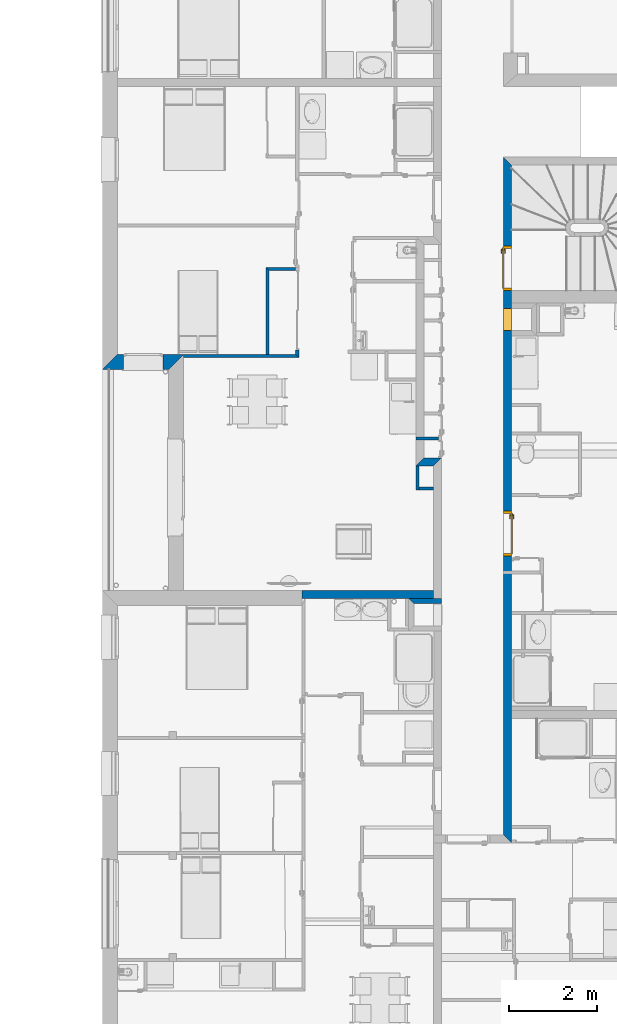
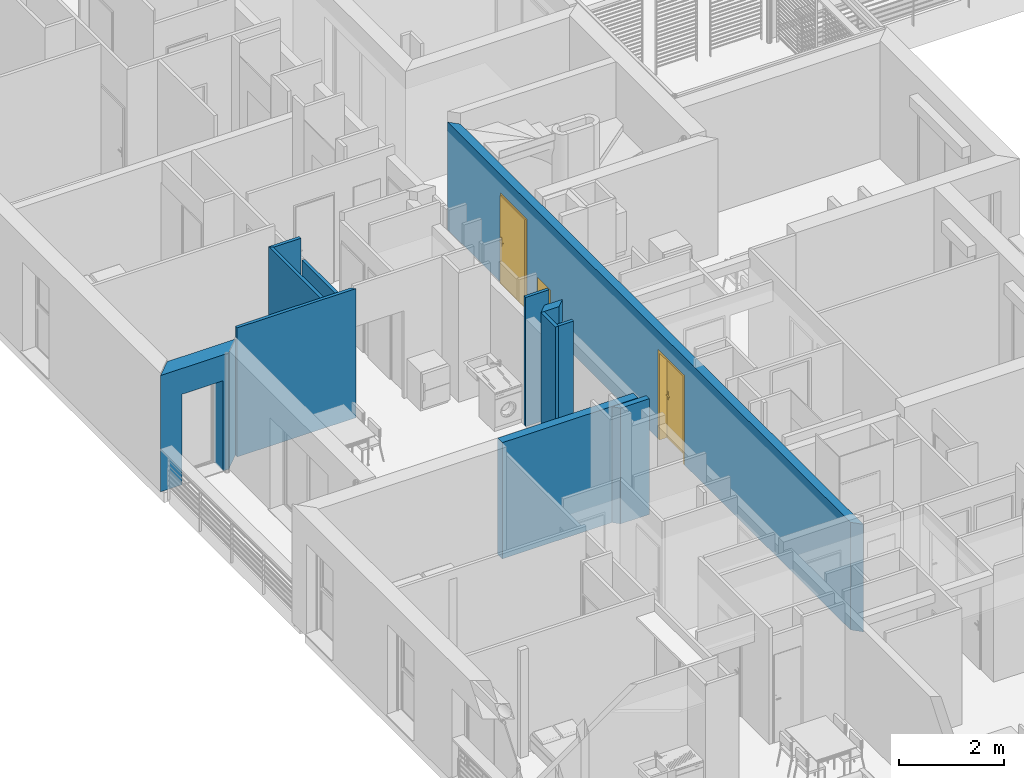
# One storey, part 36 of 171: 12 walls, 3 doors, 5 openings.
"""IFC2X3 building model written with IfcOpenShell, lengths in millimetres."""

from ifc_helpers import new_model, entity, si_unit, converted_unit, derived_unit, money_unit, direction, frame, origin_with_axes, origin_2d_with_axis, place, context, subcontext, project, spatial, polyline, rectangle, outline, extrude, faceted_brep, source, transform, mapped, material, layer, layer_set, layer_usage, type_object, element, fill, save


model = new_model("IFC2X3")

# Units and contexts
model_context = context("Model", 3, precision=0.01, world=origin_with_axes(), true_north=direction((0.0, 1.0)))
body_context = subcontext(model_context, "Body", "Model", "MODEL_VIEW")
ifc_project = project(units=[si_unit("LENGTHUNIT", "METRE", prefix="MILLI"), si_unit("AREAUNIT", "SQUARE_METRE"), si_unit("VOLUMEUNIT", "CUBIC_METRE"), converted_unit("PLANEANGLEUNIT", "DEGREE", entity("IfcPlaneAngleMeasure", 0.0174532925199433), si_unit("PLANEANGLEUNIT", "RADIAN"), dimensions=[0, 0, 0, 0, 0, 0, 0]), money_unit("USD"), converted_unit("TIMEUNIT", "Year", entity("IfcTimeMeasure", 31557600.0), si_unit("TIMEUNIT", "SECOND"), dimensions=[0, 0, 1, 0, 0, 0, 0]), si_unit("MASSUNIT", "GRAM", prefix="KILO"), si_unit("THERMODYNAMICTEMPERATUREUNIT", "DEGREE_CELSIUS"), si_unit("LUMINOUSINTENSITYUNIT", "LUMEN"), si_unit("ENERGYUNIT", "JOULE", prefix="MEGA"), derived_unit("THERMALCONDUCTANCEUNIT", [(si_unit("POWERUNIT", "WATT"), 1), (si_unit("LENGTHUNIT", "METRE"), -1), (si_unit("THERMODYNAMICTEMPERATUREUNIT", "KELVIN"), -1)]), derived_unit("SPECIFICHEATCAPACITYUNIT", [(si_unit("ENERGYUNIT", "JOULE"), 1), (si_unit("MASSUNIT", "GRAM", prefix="KILO"), -1), (si_unit("THERMODYNAMICTEMPERATUREUNIT", "KELVIN"), -1)]), derived_unit("MASSDENSITYUNIT", [(si_unit("MASSUNIT", "GRAM", prefix="KILO"), 1), (si_unit("VOLUMEUNIT", "CUBIC_METRE"), -1)])], contexts=[model_context])

# Site, building, storey
site_placement = place(None, origin_with_axes())
site = spatial("IfcSite", under=ifc_project, at=site_placement, Name="Site", CompositionType="ELEMENT")
building_placement = place(site_placement, origin_with_axes())
building = spatial("IfcBuilding", under=site, at=building_placement, Name="Bâtiment", CompositionType="ELEMENT")
storey_placement = place(building_placement, frame((0.0, 0.0, 3000.0), z_axis=(0.0, 0.0, 1.0), x_axis=(1.0, 0.0, 0.0)))
storey = spatial("IfcBuildingStorey", under=building, at=storey_placement, Name="rdc", CompositionType="ELEMENT", Elevation=3000.0)

# Wall, openings, doors
ifc_material_1 = material(Name="Parpaing 314940890")
ifc_layer_1 = layer(ifc_material_1, 180.0, ventilated="UNKNOWN")
ifc_layer_set_1 = layer_set([ifc_layer_1], Name="Beton  18 0018356637")
ifc_layer_usage_1 = layer_usage(ifc_layer_set_1, "AXIS2", "POSITIVE", 0.0)
wall_type_1 = type_object("IfcWallType", Name="Beton  18 0018356637 180", PredefinedType="NOTDEFINED")
wall_1_placement = place(storey_placement, frame((2225712.318356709, -634393.514679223, 0.0), z_axis=(0.0, 0.0, 1.0), x_axis=(0.0, -1.0, 0.0)))
wall_1 = element("IfcWallStandardCase", 1, at=wall_1_placement, inside=storey, type_object=wall_type_1, material=ifc_layer_usage_1, Name="Mur-143", context=body_context, shape_type="SweptSolid", body=[
    extrude(outline(polyline([(-180.000000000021, 0.0), (15156.07795660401, 0.0), (15336.07800512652, 179.99999999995), (0.0, 179.99999999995), (-180.000000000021, 0.0)])), origin_with_axes(), (0.0, 0.0, 1.0), 2500.0),
])
opening_1_placement = place(wall_1_placement, frame((8334.59739808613, 0.0, 0.0), z_axis=(0.0, 0.0, 1.0), x_axis=(1.0, 0.0, 0.0)))
opening_1 = element("IfcOpeningElement", 2, at=opening_1_placement, cuts=wall_1, Name="Por-299", context=body_context, shape_type="SweptSolid", body=[
    extrude(rectangle(XDim=1010.00001192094, YDim=2080.0, at=origin_2d_with_axis()), frame((5.960473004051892e-06, -179.99999999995, 1040.0), z_axis=(0.0, 1.0, 0.0), x_axis=(1.0, 0.0, 0.0)), (0.0, 0.0, 1.0), 360.0),
])
opening_2_placement = place(wall_1_placement, frame((3494.863080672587, 1.13686837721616e-10, 299.9999999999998), z_axis=(0.0, 0.0, 1.0), x_axis=(1.0, 0.0, 0.0)))
opening_2 = element("IfcOpeningElement", 3, at=opening_2_placement, cuts=wall_1, Name="Por-235", context=body_context, shape_type="SweptSolid", body=[
    extrude(rectangle(XDim=489.9999985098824, YDim=669.9999999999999, at=origin_2d_with_axis()), frame((7.450609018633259e-07, 179.99999999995, 334.9999999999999), z_axis=(0.0, -1.0, 0.0), x_axis=(-1.0, 0.0, 0.0)), (0.0, 0.0, 1.0), 360.0),
])
opening_3_placement = place(wall_1_placement, frame((2332.186197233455, 2.273736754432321e-10, 0.0), z_axis=(0.0, 0.0, 1.0), x_axis=(1.0, 0.0, 0.0)))
opening_3 = element("IfcOpeningElement", 4, at=opening_3_placement, cuts=wall_1, Name="Por-295", context=body_context, shape_type="SweptSolid", body=[
    extrude(rectangle(XDim=1010.00001192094, YDim=2080.0, at=origin_2d_with_axis()), frame((5.960473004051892e-06, 179.99999999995, 1040.0), z_axis=(0.0, 1.0, 0.0), x_axis=(1.0, 0.0, 0.0)), (0.0, 0.0, -1.0), 360.0),
])
door_style = type_object("IfcDoorStyle", Name="Porte_1v", ConstructionType="NOTDEFINED", OperationType="NOTDEFINED", ParameterTakesPrecedence=False, Sizeable=False)
shared_shape_1 = source(origin_with_axes(), body_context, "Body", "Brep", [
    faceted_brep([(504.9999999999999, 0.0, 0.0), (464.9999999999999, 0.0, 0.0), (464.9999999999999, 0.0, 2040.0), (-464.9999999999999, 0.0, 2040.0), (-464.9999999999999, 0.0, 0.0), (-504.9999999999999, 0.0, 0.0), (-504.9999999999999, 0.0, 2080.0), (504.9999999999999, 0.0, 2080.0), (504.9999999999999, -180.0, 0.0), (449.9999999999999, -180.0, 0.0), (449.9999999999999, -15.0, 0.0), (464.9999999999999, -15.0, 0.0), (464.9999999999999, -15.0, 2040.0), (-464.9999999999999, -15.0, 2040.0), (-464.9999999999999, -15.0, 0.0), (-449.9999999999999, -15.0, 0.0), (-449.9999999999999, -180.0, 0.0), (-504.9999999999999, -180.0, 0.0), (-504.9999999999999, -180.0, 2080.0), (504.9999999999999, -180.0, 2080.0), (-449.9999999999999, -180.0, 2025.0), (449.9999999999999, -180.0, 2025.0), (449.9999999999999, -15.0, 2025.0), (-449.9999999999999, -15.0, 2025.0)], [[[0, 1, 2, 3, 4, 5, 6, 7]], [[0, 8, 9, 10, 11, 1]], [[1, 11, 12, 2]], [[2, 12, 13, 3]], [[3, 13, 14, 4]], [[5, 4, 14, 15, 16, 17]], [[18, 6, 5, 17]], [[19, 7, 6, 18]], [[8, 0, 7, 19]], [[9, 8, 19, 18, 17, 16, 20, 21]], [[10, 9, 21, 22]], [[11, 10, 22, 23, 15, 14, 13, 12]], [[23, 20, 16, 15]], [[22, 21, 20, 23]]]),
    faceted_brep([(-399.9999999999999, -15.0, 900.0), (-439.9999999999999, -15.0, 900.0), (-439.9999999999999, -15.0, 1100.0), (-399.9999999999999, -15.0, 1100.0), (-399.9999999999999, -25.0, 900.0), (-439.9999999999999, -25.0, 900.0), (-439.9999999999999, -25.0, 1100.0), (-399.9999999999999, -25.0, 1100.0)], [[[0, 1, 2, 3]], [[1, 0, 4, 5]], [[2, 1, 5, 6]], [[3, 2, 6, 7]], [[0, 3, 7, 4]], [[5, 4, 7, 6]]]),
    faceted_brep([(-329.9999999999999, -25.0, 1000.0), (-429.9999999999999, -25.0, 1000.0), (-429.9999999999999, -25.0, 1020.0), (-329.9999999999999, -25.0, 1020.0), (-329.9999999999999, -44.99999999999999, 1000.0), (-429.9999999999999, -44.99999999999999, 1000.0), (-429.9999999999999, -44.99999999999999, 1020.0), (-329.9999999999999, -44.99999999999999, 1020.0)], [[[0, 1, 2, 3]], [[1, 0, 4, 5]], [[2, 1, 5, 6]], [[3, 2, 6, 7]], [[0, 3, 7, 4]], [[5, 4, 7, 6]]]),
    faceted_brep([(-399.9999999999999, 34.99999999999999, 900.0), (-439.9999999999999, 34.99999999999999, 900.0), (-439.9999999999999, 34.99999999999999, 1100.0), (-399.9999999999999, 34.99999999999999, 1100.0), (-399.9999999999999, 25.0, 900.0), (-439.9999999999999, 25.0, 900.0), (-439.9999999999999, 25.0, 1100.0), (-399.9999999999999, 25.0, 1100.0)], [[[0, 1, 2, 3]], [[1, 0, 4, 5]], [[2, 1, 5, 6]], [[3, 2, 6, 7]], [[0, 3, 7, 4]], [[5, 4, 7, 6]]]),
    faceted_brep([(-329.9999999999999, 55.0, 1000.0), (-429.9999999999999, 55.0, 1000.0), (-429.9999999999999, 55.0, 1020.0), (-329.9999999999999, 55.0, 1020.0), (-329.9999999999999, 34.99999999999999, 1000.0), (-429.9999999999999, 34.99999999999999, 1000.0), (-429.9999999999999, 34.99999999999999, 1020.0), (-329.9999999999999, 34.99999999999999, 1020.0)], [[[0, 1, 2, 3]], [[1, 0, 4, 5]], [[2, 1, 5, 6]], [[3, 2, 6, 7]], [[0, 3, 7, 4]], [[5, 4, 7, 6]]]),
    faceted_brep([(-464.9999999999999, 25.0, 0.0), (464.9999999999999, 25.0, 0.0), (464.9999999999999, -15.0, 0.0), (-464.9999999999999, -15.0, 0.0), (-464.9999999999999, 25.0, 2040.0), (464.9999999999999, 25.0, 2040.0), (464.9999999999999, -15.0, 2040.0), (-464.9999999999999, -15.0, 2040.0)], [[[0, 1, 2, 3]], [[0, 4, 5, 1]], [[1, 5, 6, 2]], [[3, 2, 6, 7]], [[4, 0, 3, 7]], [[5, 4, 7, 6]]]),
])
door_1_placement = place(opening_1_placement, frame((-464.9999999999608, 0.0, 0.0), z_axis=(0.0, 0.0, 1.0), x_axis=(1.0, 0.0, 0.0)))
door_1 = element("IfcDoor", 5, at=door_1_placement, inside=storey, type_object=door_style, Name="Por-299", OverallHeight=2040.0, OverallWidth=930.0, context=body_context, shape_type="MappedRepresentation", body=[
    mapped(shared_shape_1, transform((465.0000000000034, 180.0000000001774, 0.0))),
])
fill(opening_1, door_1)
shared_shape_2 = source(origin_with_axes(), body_context, "Body", "Brep", [
    faceted_brep([(-504.9999999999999, 0.0, 0.0), (-504.9999999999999, 0.0, 2080.0), (504.9999999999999, 0.0, 2080.0), (504.9999999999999, 0.0, 0.0), (464.9999999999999, 0.0, 0.0), (464.9999999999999, 0.0, 2040.0), (-464.9999999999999, 0.0, 2040.0), (-464.9999999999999, 0.0, 0.0), (-504.9999999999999, -180.0, 0.0), (-504.9999999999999, -180.0, 2080.0), (504.9999999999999, -180.0, 2080.0), (504.9999999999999, -180.0, 0.0), (449.9999999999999, -180.0, 0.0), (449.9999999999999, -15.0, 0.0), (464.9999999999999, -15.0, 0.0), (464.9999999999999, -15.0, 2040.0), (-464.9999999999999, -15.0, 2040.0), (-464.9999999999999, -15.0, 0.0), (-449.9999999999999, -15.0, 0.0), (-449.9999999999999, -180.0, 0.0), (-449.9999999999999, -180.0, 2025.0), (449.9999999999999, -180.0, 2025.0), (449.9999999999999, -15.0, 2025.0), (-449.9999999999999, -15.0, 2025.0)], [[[0, 1, 2, 3, 4, 5, 6, 7]], [[8, 9, 1, 0]], [[9, 10, 2, 1]], [[10, 11, 3, 2]], [[3, 11, 12, 13, 14, 4]], [[5, 4, 14, 15]], [[6, 5, 15, 16]], [[7, 6, 16, 17]], [[0, 7, 17, 18, 19, 8]], [[19, 20, 21, 12, 11, 10, 9, 8]], [[22, 13, 12, 21]], [[17, 16, 15, 14, 13, 22, 23, 18]], [[18, 23, 20, 19]], [[23, 22, 21, 20]]]),
    faceted_brep([(399.9999999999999, -15.0, 900.0), (399.9999999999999, -15.0, 1100.0), (439.9999999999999, -15.0, 1100.0), (439.9999999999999, -15.0, 900.0), (399.9999999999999, -25.0, 900.0), (399.9999999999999, -25.0, 1100.0), (439.9999999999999, -25.0, 1100.0), (439.9999999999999, -25.0, 900.0)], [[[0, 1, 2, 3]], [[0, 4, 5, 1]], [[1, 5, 6, 2]], [[2, 6, 7, 3]], [[3, 7, 4, 0]], [[7, 6, 5, 4]]]),
    faceted_brep([(329.9999999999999, -25.0, 1000.0), (329.9999999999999, -25.0, 1020.0), (429.9999999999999, -25.0, 1020.0), (429.9999999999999, -25.0, 1000.0), (329.9999999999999, -44.99999999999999, 1000.0), (329.9999999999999, -44.99999999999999, 1020.0), (429.9999999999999, -44.99999999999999, 1020.0), (429.9999999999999, -44.99999999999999, 1000.0)], [[[0, 1, 2, 3]], [[0, 4, 5, 1]], [[1, 5, 6, 2]], [[2, 6, 7, 3]], [[3, 7, 4, 0]], [[7, 6, 5, 4]]]),
    faceted_brep([(399.9999999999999, 34.99999999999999, 900.0), (399.9999999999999, 34.99999999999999, 1100.0), (439.9999999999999, 34.99999999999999, 1100.0), (439.9999999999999, 34.99999999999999, 900.0), (399.9999999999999, 25.0, 900.0), (399.9999999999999, 25.0, 1100.0), (439.9999999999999, 25.0, 1100.0), (439.9999999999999, 25.0, 900.0)], [[[0, 1, 2, 3]], [[0, 4, 5, 1]], [[1, 5, 6, 2]], [[2, 6, 7, 3]], [[3, 7, 4, 0]], [[7, 6, 5, 4]]]),
    faceted_brep([(329.9999999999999, 55.0, 1000.0), (329.9999999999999, 55.0, 1020.0), (429.9999999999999, 55.0, 1020.0), (429.9999999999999, 55.0, 1000.0), (329.9999999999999, 34.99999999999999, 1000.0), (329.9999999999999, 34.99999999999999, 1020.0), (429.9999999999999, 34.99999999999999, 1020.0), (429.9999999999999, 34.99999999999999, 1000.0)], [[[0, 1, 2, 3]], [[0, 4, 5, 1]], [[1, 5, 6, 2]], [[2, 6, 7, 3]], [[3, 7, 4, 0]], [[7, 6, 5, 4]]]),
    faceted_brep([(464.9999999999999, 25.0, 0.0), (464.9999999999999, -15.0, 0.0), (-464.9999999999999, -15.0, 0.0), (-464.9999999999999, 25.0, 0.0), (464.9999999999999, 25.0, 2040.0), (464.9999999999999, -15.0, 2040.0), (-464.9999999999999, -15.0, 2040.0), (-464.9999999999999, 25.0, 2040.0)], [[[0, 1, 2, 3]], [[4, 5, 1, 0]], [[1, 5, 6, 2]], [[3, 2, 6, 7]], [[0, 3, 7, 4]], [[7, 6, 5, 4]]]),
])
door_2_placement = place(opening_3_placement, frame((465.0000000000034, 2.273736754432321e-10, 0.0), z_axis=(0.0, 0.0, 1.0), x_axis=(-1.0, 0.0, 0.0)))
door_2 = element("IfcDoor", 6, at=door_2_placement, inside=storey, type_object=door_style, Name="Por-295", OverallHeight=2040.0, OverallWidth=930.0, context=body_context, shape_type="MappedRepresentation", body=[
    mapped(shared_shape_2, transform((465.0000000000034, 0.0, 0.0))),
])
fill(opening_3, door_2)
shared_shape_3 = source(origin_with_axes(), body_context, "Body", "Brep", [
    faceted_brep([(245.0, 0.0, 0.0), (225.0, 0.0, 0.0), (225.0, 0.0, 650.0), (-225.0, 0.0, 650.0), (-225.0, 0.0, 0.0), (-245.0, 0.0, 0.0), (-245.0, 0.0, 670.0), (245.0, 0.0, 670.0), (245.0, -180.0, 0.0), (210.0, -180.0, 0.0), (210.0, -15.0, 0.0), (225.0, -15.0, 0.0), (225.0, -15.0, 650.0), (-225.0, -15.0, 650.0), (-225.0, -15.0, 0.0), (-210.0, -15.0, 0.0), (-210.0, -180.0, 0.0), (-245.0, -180.0, 0.0), (-245.0, -180.0, 670.0), (245.0, -180.0, 670.0), (-210.0, -180.0, 635.0), (210.0, -180.0, 635.0), (210.0, -15.0, 635.0), (-210.0, -15.0, 635.0)], [[[0, 1, 2, 3, 4, 5, 6, 7]], [[0, 8, 9, 10, 11, 1]], [[1, 11, 12, 2]], [[2, 12, 13, 3]], [[3, 13, 14, 4]], [[5, 4, 14, 15, 16, 17]], [[18, 6, 5, 17]], [[19, 7, 6, 18]], [[8, 0, 7, 19]], [[9, 8, 19, 18, 17, 16, 20, 21]], [[10, 9, 21, 22]], [[11, 10, 22, 23, 15, 14, 13, 12]], [[23, 20, 16, 15]], [[22, 21, 20, 23]]]),
    faceted_brep([(-225.0, 5.000000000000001, 0.0), (225.0, 5.000000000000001, 0.0), (225.0, -15.0, 0.0), (-225.0, -15.0, 0.0), (-225.0, 5.000000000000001, 650.0), (225.0, 5.000000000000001, 650.0), (225.0, -15.0, 650.0), (-225.0, -15.0, 650.0)], [[[0, 1, 2, 3]], [[0, 4, 5, 1]], [[1, 5, 6, 2]], [[3, 2, 6, 7]], [[4, 0, 3, 7]], [[5, 4, 7, 6]]]),
])
door_3_placement = place(opening_2_placement, frame((224.9999999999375, 1.13686837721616e-10, 0.0), z_axis=(0.0, 0.0, 1.0), x_axis=(-1.0, 0.0, 0.0)))
door_3 = element("IfcDoor", 7, at=door_3_placement, inside=storey, type_object=door_style, Name="Por-235", OverallHeight=650.0, OverallWidth=450.0, context=body_context, shape_type="MappedRepresentation", body=[
    mapped(shared_shape_3, transform((224.9999999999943, -1.13686837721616e-10, 0.0))),
])
fill(opening_2, door_3)

# Walls
ifc_layer_usage_2 = layer_usage(ifc_layer_set_1, "AXIS2", "NEGATIVE", 0.0)
wall_2_placement = place(storey_placement, frame((2221152.351167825, -644016.3764661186, 0.0), z_axis=(0.0, 0.0, 1.0), x_axis=(0.9999999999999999, 1.891932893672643e-08, 0.0)))
element("IfcWallStandardCase", 8, at=wall_2_placement, inside=storey, type_object=wall_type_1, material=ifc_layer_usage_2, Name="Mur-142", context=body_context, shape_type="SweptSolid", body=[
    extrude(outline(polyline([(-5.654783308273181e-07, -180.0000000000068), (2980.033167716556, -180.0000000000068), (2980.034043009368, 0.0), (-1.13686837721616e-10, 0.0), (-5.654783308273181e-07, -180.0000000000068)])), origin_with_axes(), (0.0, 0.0, 1.0), 2700.0),
])
ifc_layer_usage_3 = layer_usage(ifc_layer_set_1, "AXIS2", "NEGATIVE", 0.0)
wall_3_placement = place(storey_placement, frame((2224312.398868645, -641196.7399761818, 0.0), z_axis=(0.0, 0.0, 1.0), x_axis=(-0.9999999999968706, 2.501772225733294e-06, 0.0)))
element("IfcWallStandardCase", 9, at=wall_3_placement, inside=storey, type_object=wall_type_1, material=ifc_layer_usage_3, Name="Mur-142", context=body_context, shape_type="SweptSolid", body=[
    extrude(outline(polyline([(-0.0004215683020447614, -179.9999999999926), (399.9991980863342, -179.9999999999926), (579.9987477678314, 0.0), (180.0000000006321, 0.0), (-0.0004215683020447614, -179.9999999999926)])), origin_with_axes(), (0.0, 0.0, 1.0), 3000.0),
])
ifc_material_2 = material(Name="Hachure solide 268963992")
ifc_layer_2 = layer(ifc_material_2, 70.0, ventilated="UNKNOWN")
ifc_layer_set_2 = layer_set([ifc_layer_2], Name="Cloison 70 0826278243")
ifc_layer_usage_4 = layer_usage(ifc_layer_set_2, "AXIS2", "NEGATIVE", 70.0)
wall_type_2 = type_object("IfcWallType", Name="Cloison 70 0826278243 70", PredefinedType="NOTDEFINED")
wall_4_placement = place(storey_placement, frame((2221010.880277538, -638676.8076992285, 0.0), z_axis=(0.0, 0.0, 1.0), x_axis=(-0.9999999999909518, 4.253995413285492e-06, 0.0)))
element("IfcWallStandardCase", 10, at=wall_4_placement, inside=storey, type_object=wall_type_2, material=ifc_layer_usage_4, Name="Mur-149", context=body_context, shape_type="SweptSolid", body=[
    extrude(outline(polyline([(0.0, 0.0), (2536.563838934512, 0.0), (2536.563838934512, 69.99999999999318), (-70.00027978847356, 69.99999999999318), (0.0, 0.0)])), origin_with_axes(), (0.0, 0.0, 1.0), 3000.0),
])
ifc_layer_usage_5 = layer_usage(ifc_layer_set_2, "AXIS2", "NEGATIVE", 70.0)
wall_5_placement = place(storey_placement, frame((2221010.879786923, -636706.2935272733, 0.0), z_axis=(0.0, 0.0, 1.0), x_axis=(-0.9999999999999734, 2.308093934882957e-07, 0.0)))
element("IfcWallStandardCase", 11, at=wall_5_placement, inside=storey, type_object=wall_type_2, material=ifc_layer_usage_5, Name="Mur-149", context=body_context, shape_type="SweptSolid", body=[
    extrude(outline(polyline([(-0.0009970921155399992, 0.0), (669.9989735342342, 0.0), (599.9989748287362, 69.99999999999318), (-0.0009952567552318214, 70.00000000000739), (-0.0009970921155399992, 0.0)])), origin_with_axes(), (0.0, 0.0, 1.0), 3000.0),
])
ifc_layer_usage_6 = layer_usage(ifc_layer_set_2, "AXIS2", "NEGATIVE", 70.0)
wall_6_placement = place(storey_placement, frame((2220340.880813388, -636706.2933726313, 0.0), z_axis=(0.0, 0.0, 1.0), x_axis=(-2.493034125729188e-07, -0.999999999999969, 0.0)))
element("IfcWallStandardCase", 12, at=wall_6_placement, inside=storey, type_object=wall_type_2, material=ifc_layer_usage_6, Name="Mur-149", context=body_context, shape_type="SweptSolid", body=[
    extrude(outline(polyline([(0.0, 0.0), (1970.511476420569, 0.0), (1970.511756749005, 70.00000000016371), (69.99999870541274, 70.00000000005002), (0.0, 0.0)])), origin_with_axes(), (0.0, 0.0, 1.0), 3000.0),
])
ifc_layer_usage_7 = layer_usage(ifc_layer_set_2, "AXIS2", "NEGATIVE", 0.0)
wall_7_placement = place(storey_placement, frame((2223732.355969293, -640549.3889911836, 0.0), z_axis=(0.0, 0.0, 1.0), x_axis=(1.0, 0.0, 0.0)))
element("IfcWallStandardCase", 13, at=wall_7_placement, inside=storey, type_object=wall_type_2, material=ifc_layer_usage_7, Name="Mur-121", context=body_context, shape_type="SweptSolid", body=[
    extrude(outline(polyline([(0.0, -69.99999999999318), (510.0436845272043, -69.99999999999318), (510.0437016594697, 0.0), (0.0, 0.0), (0.0, -69.99999999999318)])), origin_with_axes(), (0.0, 0.0, 1.0), 3000.0),
])

# Wall, opening
ifc_layer_usage_8 = layer_usage(ifc_layer_set_2, "AXIS2", "NEGATIVE", 70.0)
wall_8_placement = place(storey_placement, frame((2221010.880755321, -636817.9291753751, 0.0), z_axis=(0.0, 0.0, 1.0), x_axis=(-2.570276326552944e-07, -0.999999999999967, 0.0)))
wall_8 = element("IfcWallStandardCase", 14, at=wall_8_placement, inside=storey, type_object=wall_type_2, material=ifc_layer_usage_8, Name="Mur-149", context=body_context, shape_type="SweptSolid", body=[
    extrude(outline(polyline([(0.0, 0.0), (1858.87852385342, 0.0), (1928.878803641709, 70.00000000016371), (0.0, 70.00000000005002), (0.0, 0.0)])), origin_with_axes(), (0.0, 0.0, 1.0), 2512.25122490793),
])
opening_4_placement = place(wall_8_placement, frame((861.2301836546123, 1.13686837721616e-10, 0.0), z_axis=(0.0, 0.0, 1.0), x_axis=(1.0, 0.0, 0.0)))
element("IfcOpeningElement", 15, at=opening_4_placement, cuts=wall_8, Name="Por-321", context=body_context, shape_type="SweptSolid", body=[
    extrude(rectangle(XDim=1805.731663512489, YDim=2000.0, at=origin_2d_with_axis()), frame((0.0, 70.00000000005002, 1000.0), z_axis=(0.0, -1.0, 0.0), x_axis=(1.0, 0.0, 0.0)), (0.0, 0.0, -1.0), 70.0),
    extrude(rectangle(XDim=1805.731663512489, YDim=2000.0, at=origin_2d_with_axis()), frame((0.0, 70.00000000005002, 1000.0), z_axis=(0.0, 1.0, 0.0), x_axis=(1.0, 0.0, 0.0)), (0.0, 0.0, -1.0), 70.0),
])

# Walls
ifc_layer_usage_9 = layer_usage(ifc_layer_set_2, "AXIS2", "POSITIVE", 0.0)
wall_9_placement = place(storey_placement, frame((2224312.402223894, -641680.3202127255, 0.0), z_axis=(0.0, 0.0, 1.0), x_axis=(-0.9999999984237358, -5.6147381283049e-05, 0.0)))
element("IfcWallStandardCase", 16, at=wall_9_placement, inside=storey, type_object=wall_type_2, material=ifc_layer_usage_9, Name="Mur-121", context=body_context, shape_type="SweptSolid", body=[
    extrude(outline(polyline([(180.0056979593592, 0.0), (509.9944794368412, 0.0), (509.9973061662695, 70.00000000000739), (180.0099673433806, 70.00000000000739), (180.0056979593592, 0.0)])), origin_with_axes(), (0.0, 0.0, 1.0), 3000.0),
])
ifc_layer_usage_10 = layer_usage(ifc_layer_set_2, "AXIS2", "NEGATIVE", 0.0)
wall_10_placement = place(storey_placement, frame((2223732.408848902, -641750.3527779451, 0.0), z_axis=(0.0, 0.0, 1.0), x_axis=(-1.576553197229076e-05, 0.9999999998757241, 0.0)))
element("IfcWallStandardCase", 17, at=wall_10_placement, inside=storey, type_object=wall_type_2, material=ifc_layer_usage_10, Name="Mur-121", context=body_context, shape_type="SweptSolid", body=[
    extrude(outline(polyline([(0.0, -69.99999999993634), (553.6129741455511, -69.99999999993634), (553.6142528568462, 0.0), (0.0, 0.0), (0.0, -69.99999999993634)])), origin_with_axes(), (0.0, 0.0, 1.0), 3000.0),
])

# Wall, opening
ifc_material_3 = material(Name="Parpaing 312445824")
ifc_layer_3 = layer(ifc_material_3, 180.0, ventilated="UNKNOWN")
ifc_material_4 = material(Name="Isolant styromousse 301821074")
ifc_layer_4 = layer(ifc_material_4, 160.0, ventilated="UNKNOWN")
ifc_layer_set_3 = layer_set([ifc_layer_3, ifc_layer_4], Name="isol int 18+16 0018356637")
ifc_layer_usage_11 = layer_usage(ifc_layer_set_3, "AXIS2", "POSITIVE", 0.0)
wall_type_3 = type_object("IfcWallType", Name="isol int 18+16 0018356637 340", PredefinedType="NOTDEFINED")
wall_11_placement = place(storey_placement, frame((2216634.312276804, -639016.8076992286, 0.0), z_axis=(0.0, 0.0, 1.0), x_axis=(1.0, 0.0, 0.0)))
wall_11 = element("IfcWallStandardCase", 18, at=wall_11_placement, inside=storey, type_object=wall_type_3, material=ifc_layer_usage_11, Name="Mur-142", context=body_context, shape_type="SweptSolid", body=[
    extrude(outline(polyline([(0.0, 0.0), (1500.006155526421, 0.0), (1840.011101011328, 340.0000000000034), (339.9979968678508, 340.0000000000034), (0.0, 0.0)])), origin_with_axes(), (0.0, 0.0, 1.0), 2700.0),
])
opening_5_placement = place(wall_11_placement, frame((925.9030305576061, 0.0, 0.0), z_axis=(0.0, 0.0, 1.0), x_axis=(1.0, 0.0, 0.0)))
element("IfcOpeningElement", 19, at=opening_5_placement, cuts=wall_11, Name="Fen-207", context=body_context, shape_type="Brep", body=[
    faceted_brep([(-449.9999999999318, 341.0000000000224, 2100.0), (450.0000000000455, 341.0000000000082, 2100.0), (450.0000000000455, 341.0000000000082, 0.0), (-450.0000000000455, 341.0000000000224, 0.0), (-449.9999999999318, 530.0000000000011, 2100.0), (450.0000000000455, 529.9999999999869, 2100.0), (450.0000000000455, 289.999999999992, 2100.0), (450.0000000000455, 289.999999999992, 0.0), (450.0000000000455, -1.000000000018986, 0.0), (-450.0000000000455, -1.000000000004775, 0.0), (-450.0000000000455, 290.0000000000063, 0.0), (-449.9999999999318, 290.0000000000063, 2100.0), (-449.9999999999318, 280.0000000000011, 2100.0), (-449.9999999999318, 280.0000000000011, 2350.0), (-449.9999999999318, 530.0000000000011, 2350.0), (450.0000000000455, 529.9999999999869, 2350.0), (450.0000000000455, 279.9999999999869, 2350.0), (450.0000000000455, 279.9999999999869, 2100.0), (450.0000000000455, -1.000000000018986, 2100.0), (-450.0000000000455, -1.000000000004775, 2100.0)], [[[0, 1, 2, 3]], [[1, 0, 4, 5]], [[1, 6, 7, 2]], [[7, 8, 9, 10, 3, 2]], [[11, 0, 3, 10]], [[0, 11, 12, 13, 14, 4]], [[4, 14, 15, 5]], [[6, 1, 5, 15, 16, 17]], [[6, 17, 18, 8, 7]], [[19, 9, 8, 18]], [[12, 11, 10, 9, 19]], [[12, 17, 16, 13]], [[14, 13, 16, 15]], [[17, 12, 19, 18]]]),
])

# Wall
ifc_material_5 = material(Name="AS_EMPTY 272048125")
ifc_layer_5 = layer(ifc_material_5, 20.0, ventilated="UNKNOWN")
ifc_material_6 = material(Name="Isolant styromousse 275581351")
ifc_layer_6 = layer(ifc_material_6, 80.0, ventilated="UNKNOWN")
ifc_layer_7 = layer(ifc_material_5, 20.0, ventilated="UNKNOWN")
ifc_layer_set_4 = layer_set([ifc_layer_5, ifc_layer_6, ifc_layer_7], Name="SAA 120")
ifc_layer_usage_12 = layer_usage(ifc_layer_set_4, "AXIS2", "NEGATIVE", 0.0)
wall_type_4 = type_object("IfcWallType", Name="SAA 120 120", PredefinedType="NOTDEFINED")
wall_12_placement = place(storey_placement, frame((2223562.645989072, -644196.3764097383, 0.0), z_axis=(0.0, 0.0, 1.0), x_axis=(1.0, 0.0, 0.0)))
element("IfcWallStandardCase", 20, at=wall_12_placement, inside=storey, type_object=wall_type_4, material=ifc_layer_usage_12, Name="Mur-156", context=body_context, shape_type="SweptSolid", body=[
    extrude(outline(polyline([(119.9266037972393, -120.0000000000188), (751.3838163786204, -120.0000000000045), (751.3838163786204, 0.0), (0.0, 0.0), (119.9266037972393, -120.0000000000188)])), origin_with_axes(), (0.0, 0.0, 1.0), 2690.0),
])

save(model, "model.ifc")
